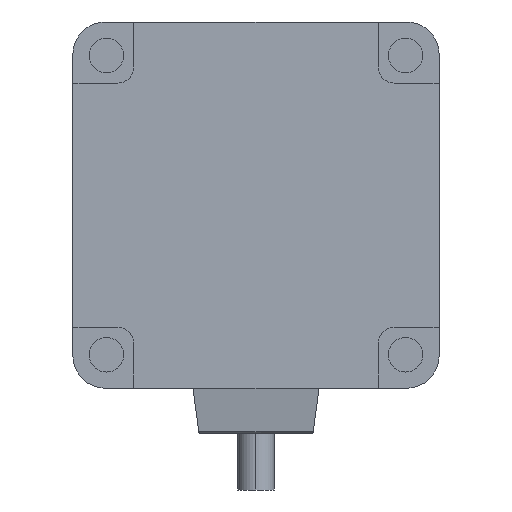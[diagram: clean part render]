
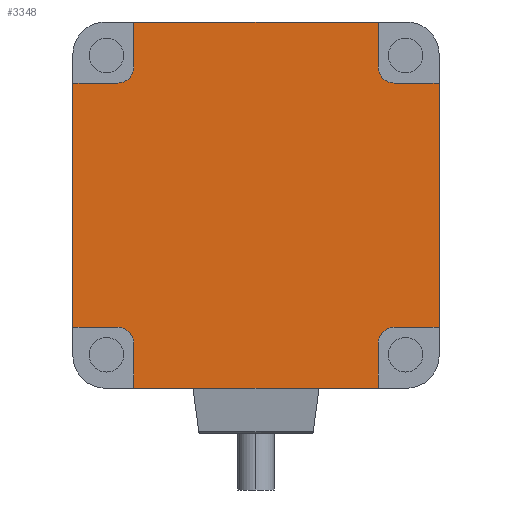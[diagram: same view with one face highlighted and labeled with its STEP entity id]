
A CAD part, left-side view. The second image highlights one B-rep face of the part: STEP entity #3348.
In plain terms, the highlighted planar face has unit normal (-1, 0, 0).
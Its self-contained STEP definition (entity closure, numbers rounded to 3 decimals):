
#3209=CARTESIAN_POINT('POINT244822',(-121.,44.99,-48.));
#3210=VERTEX_POINT('VERTEX244822',#3209);
#3211=CARTESIAN_POINT('POINT244823',(-121.,34.,-48.));
#3212=VERTEX_POINT('VERTEX244823',#3211);
#3213=CARTESIAN_POINT('POS418167',(-121.,17.,-48.));
#3214=DIRECTION('DIR607957',(0.,-1.,0.));
#3215=VECTOR('VEC228377',#3214,1.);
#3216=LINE('STRAIGHT228377',#3213,#3215);
#3217=EDGE_CURVE('EDGE378449',#3210,#3212,#3216,.T.);
#3218=ORIENTED_EDGE('COEDGE757049',*,*,#3217,.T.);
#3219=CARTESIAN_POINT('POINT244824',(-121.,30.,-52.));
#3220=VERTEX_POINT('VERTEX244824',#3219);
#3221=CARTESIAN_POINT('POS418168',(-121.,34.,-52.));
#3222=DIRECTION('DIR607958',(1.,0.,0.));
#3223=DIRECTION('DIR607959',(0.,-1.,0.));
#3224=AXIS2_PLACEMENT_3D('AXIS189791',#3221,#3222,#3223);
#3225=CIRCLE('ELLIPSE77829',#3224,4.);
#3226=EDGE_CURVE('EDGE378450',#3212,#3220,#3225,.T.);
#3227=ORIENTED_EDGE('COEDGE757050',*,*,#3226,.T.);
#3228=CARTESIAN_POINT('POINT244825',(-121.,30.,-62.99));
#3229=VERTEX_POINT('VERTEX244825',#3228);
#3230=CARTESIAN_POINT('POS418169',(-121.,30.,-42.5));
#3231=DIRECTION('DIR607960',(0.,0.,-1.));
#3232=VECTOR('VEC228378',#3231,1.);
#3233=LINE('STRAIGHT228378',#3230,#3232);
#3234=EDGE_CURVE('EDGE378451',#3220,#3229,#3233,.T.);
#3235=ORIENTED_EDGE('COEDGE757051',*,*,#3234,.T.);
#3236=CARTESIAN_POINT('POINT244826',(-121.,-30.,-62.99));
#3237=VERTEX_POINT('VERTEX244826',#3236);
#3238=CARTESIAN_POINT('POS418170',(-121.,0.,-62.99));
#3239=DIRECTION('DIR607961',(0.,1.,0.));
#3240=VECTOR('VEC228379',#3239,1.);
#3241=LINE('STRAIGHT228379',#3238,#3240);
#3242=EDGE_CURVE('EDGE378452',#3237,#3229,#3241,.T.);
#3243=ORIENTED_EDGE('COEDGE757052',*,*,#3242,.F.);
#3244=CARTESIAN_POINT('POINT244827',(-121.,-30.,-52.));
#3245=VERTEX_POINT('VERTEX244827',#3244);
#3246=CARTESIAN_POINT('POS418171',(-121.,-30.,-35.));
#3247=DIRECTION('DIR607962',(0.,0.,1.));
#3248=VECTOR('VEC228380',#3247,1.);
#3249=LINE('STRAIGHT228380',#3246,#3248);
#3250=EDGE_CURVE('EDGE378453',#3237,#3245,#3249,.T.);
#3251=ORIENTED_EDGE('COEDGE757053',*,*,#3250,.T.);
#3252=CARTESIAN_POINT('POINT244828',(-121.,-34.,-48.));
#3253=VERTEX_POINT('VERTEX244828',#3252);
#3254=CARTESIAN_POINT('POS418172',(-121.,-34.,-52.));
#3255=DIRECTION('DIR607963',(1.,0.,0.));
#3256=DIRECTION('DIR607964',(0.,0.,1.));
#3257=AXIS2_PLACEMENT_3D('AXIS189792',#3254,#3255,#3256);
#3258=CIRCLE('ELLIPSE77830',#3257,4.);
#3259=EDGE_CURVE('EDGE378454',#3245,#3253,#3258,.T.);
#3260=ORIENTED_EDGE('COEDGE757054',*,*,#3259,.T.);
#3261=CARTESIAN_POINT('POINT244829',(-121.,-44.99,-48.));
#3262=VERTEX_POINT('VERTEX244829',#3261);
#3263=CARTESIAN_POINT('POS418173',(-121.,-24.5,-48.));
#3264=DIRECTION('DIR607965',(0.,-1.,0.));
#3265=VECTOR('VEC228381',#3264,1.);
#3266=LINE('STRAIGHT228381',#3263,#3265);
#3267=EDGE_CURVE('EDGE378455',#3253,#3262,#3266,.T.);
#3268=ORIENTED_EDGE('COEDGE757055',*,*,#3267,.T.);
#3269=CARTESIAN_POINT('POINT244830',(-121.,-44.99,12.));
#3270=VERTEX_POINT('VERTEX244830',#3269);
#3271=CARTESIAN_POINT('POS418174',(-121.,-44.99,19.));
#3272=DIRECTION('DIR607966',(0.,0.,-1.));
#3273=VECTOR('VEC228382',#3272,1.);
#3274=LINE('STRAIGHT228382',#3271,#3273);
#3275=EDGE_CURVE('EDGE378456',#3270,#3262,#3274,.T.);
#3276=ORIENTED_EDGE('COEDGE757056',*,*,#3275,.F.);
#3277=CARTESIAN_POINT('POINT244831',(-121.,-34.,12.));
#3278=VERTEX_POINT('VERTEX244831',#3277);
#3279=CARTESIAN_POINT('POS418175',(-121.,-17.,12.));
#3280=DIRECTION('DIR607967',(0.,1.,0.));
#3281=VECTOR('VEC228383',#3280,1.);
#3282=LINE('STRAIGHT228383',#3279,#3281);
#3283=EDGE_CURVE('EDGE378457',#3270,#3278,#3282,.T.);
#3284=ORIENTED_EDGE('COEDGE757057',*,*,#3283,.T.);
#3285=CARTESIAN_POINT('POINT244832',(-121.,-30.,16.));
#3286=VERTEX_POINT('VERTEX244832',#3285);
#3287=CARTESIAN_POINT('POS418176',(-121.,-34.,16.));
#3288=DIRECTION('DIR607968',(1.,0.,0.));
#3289=DIRECTION('DIR607969',(0.,1.,0.));
#3290=AXIS2_PLACEMENT_3D('AXIS189793',#3287,#3288,#3289);
#3291=CIRCLE('ELLIPSE77831',#3290,4.);
#3292=EDGE_CURVE('EDGE378458',#3278,#3286,#3291,.T.);
#3293=ORIENTED_EDGE('COEDGE757058',*,*,#3292,.T.);
#3294=CARTESIAN_POINT('POINT244833',(-121.,-30.,26.99));
#3295=VERTEX_POINT('VERTEX244833',#3294);
#3296=CARTESIAN_POINT('POS418177',(-121.,-30.,
   6.5));
#3297=DIRECTION('DIR607970',(0.,0.,1.));
#3298=VECTOR('VEC228384',#3297,1.);
#3299=LINE('STRAIGHT228384',#3296,#3298);
#3300=EDGE_CURVE('EDGE378459',#3286,#3295,#3299,.T.);
#3301=ORIENTED_EDGE('COEDGE757059',*,*,#3300,.T.);
#3302=CARTESIAN_POINT('POINT244834',(-121.,30.,26.99));
#3303=VERTEX_POINT('VERTEX244834',#3302);
#3304=CARTESIAN_POINT('POS418178',(-121.,37.,26.99));
#3305=DIRECTION('DIR607971',(0.,-1.,0.));
#3306=VECTOR('VEC228385',#3305,1.);
#3307=LINE('STRAIGHT228385',#3304,#3306);
#3308=EDGE_CURVE('EDGE378460',#3303,#3295,#3307,.T.);
#3309=ORIENTED_EDGE('COEDGE757060',*,*,#3308,.F.);
#3310=CARTESIAN_POINT('POINT244835',(-121.,30.,16.));
#3311=VERTEX_POINT('VERTEX244835',#3310);
#3312=CARTESIAN_POINT('POS418179',(-121.,30.,-1.));
#3313=DIRECTION('DIR607972',(0.,0.,-1.));
#3314=VECTOR('VEC228386',#3313,1.);
#3315=LINE('STRAIGHT228386',#3312,#3314);
#3316=EDGE_CURVE('EDGE378461',#3303,#3311,#3315,.T.);
#3317=ORIENTED_EDGE('COEDGE757061',*,*,#3316,.T.);
#3318=CARTESIAN_POINT('POINT244836',(-121.,34.,12.));
#3319=VERTEX_POINT('VERTEX244836',#3318);
#3320=CARTESIAN_POINT('POS418180',(-121.,34.,16.));
#3321=DIRECTION('DIR607973',(1.,0.,0.));
#3322=DIRECTION('DIR607974',(0.,0.,-1.));
#3323=AXIS2_PLACEMENT_3D('AXIS189794',#3320,#3321,#3322);
#3324=CIRCLE('ELLIPSE77832',#3323,4.);
#3325=EDGE_CURVE('EDGE378462',#3311,#3319,#3324,.T.);
#3326=ORIENTED_EDGE('COEDGE757062',*,*,#3325,.T.);
#3327=CARTESIAN_POINT('POINT244837',(-121.,44.99,12.));
#3328=VERTEX_POINT('VERTEX244837',#3327);
#3329=CARTESIAN_POINT('POS418181',(-121.,24.5,12.));
#3330=DIRECTION('DIR607975',(0.,1.,0.));
#3331=VECTOR('VEC228387',#3330,1.);
#3332=LINE('STRAIGHT228387',#3329,#3331);
#3333=EDGE_CURVE('EDGE378463',#3319,#3328,#3332,.T.);
#3334=ORIENTED_EDGE('COEDGE757063',*,*,#3333,.T.);
#3335=CARTESIAN_POINT('POS418182',(-121.,44.99,-55.));
#3336=DIRECTION('DIR607976',(0.,0.,1.));
#3337=VECTOR('VEC228388',#3336,1.);
#3338=LINE('STRAIGHT228388',#3335,#3337);
#3339=EDGE_CURVE('EDGE378464',#3210,#3328,#3338,.T.);
#3340=ORIENTED_EDGE('COEDGE757064',*,*,#3339,.F.);
#3341=EDGE_LOOP('NONE',(#3218,#3227,#3235,#3243,#3251,#3260,#3268,#3276,
   #3284,#3293,#3301,#3309,#3317,#3326,#3334,#3340));
#3342=FACE_BOUND('LOOP1',#3341,.T.);
#3343=CARTESIAN_POINT('POS418183',(-121.,0.,
   -18.));
#3344=DIRECTION('DIR607977',(1.,0.,0.));
#3345=DIRECTION('DIR607978',(0.,1.,0.));
#3346=AXIS2_PLACEMENT_3D('AXIS189795',#3343,#3344,#3345);
#3347=PLANE('PLANE78028',#3346);
#3348=ADVANCED_FACE('FACE147000',(#3342),#3347,.F.);
